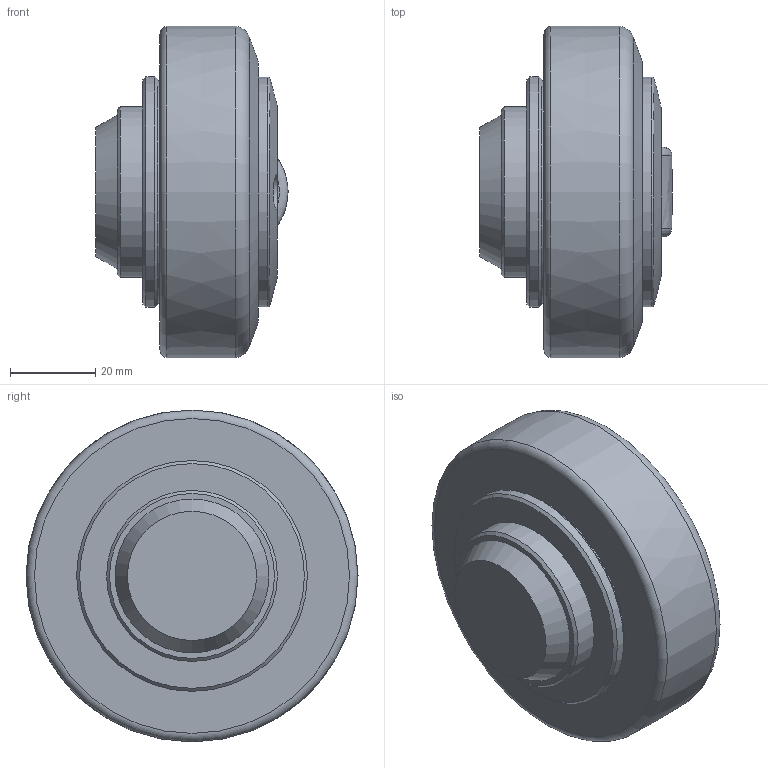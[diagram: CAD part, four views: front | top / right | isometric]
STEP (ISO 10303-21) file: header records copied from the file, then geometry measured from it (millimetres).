
FILE_DESCRIPTION((''),'2;1');
FILE_NAME('C:\Users\manolo mussida\Desktop\400-0075.stp','2022-03-03T15:42:12',('manolo mussida'),(''),'Autodesk Inventor 2013','Autodesk Inventor 2013','');
FILE_SCHEMA(('AUTOMOTIVE_DESIGN { 1 0 10303 214 1 1 1 1 }'));
Length unit declared in the file: millimetre
Products named in the file (1): 400-0075
Bounding box: 45 x 77.69 x 77.67 mm (x, y, z)
Volume: 135945 mm3; surface area: 16571.1 mm2
Topology: 1 solids, 1 shells, 44 faces, 96 edges, 62 vertices
Faces by surface type: plane 25, cylinder 6, cone 6, torus 5, bspline 2
Full cylindrical faces by diameter (mm): 8.5 x2, 40 x1, 52 x1, 53.8 x1, 54 x1
Entity records: 1199 total; most frequent: CARTESIAN_POINT 291, DIRECTION 182, ORIENTED_EDGE 150, EDGE_CURVE 75, AXIS2_PLACEMENT_3D 72, EDGE_LOOP 68, VERTEX_POINT 57, FACE_OUTER_BOUND 44
